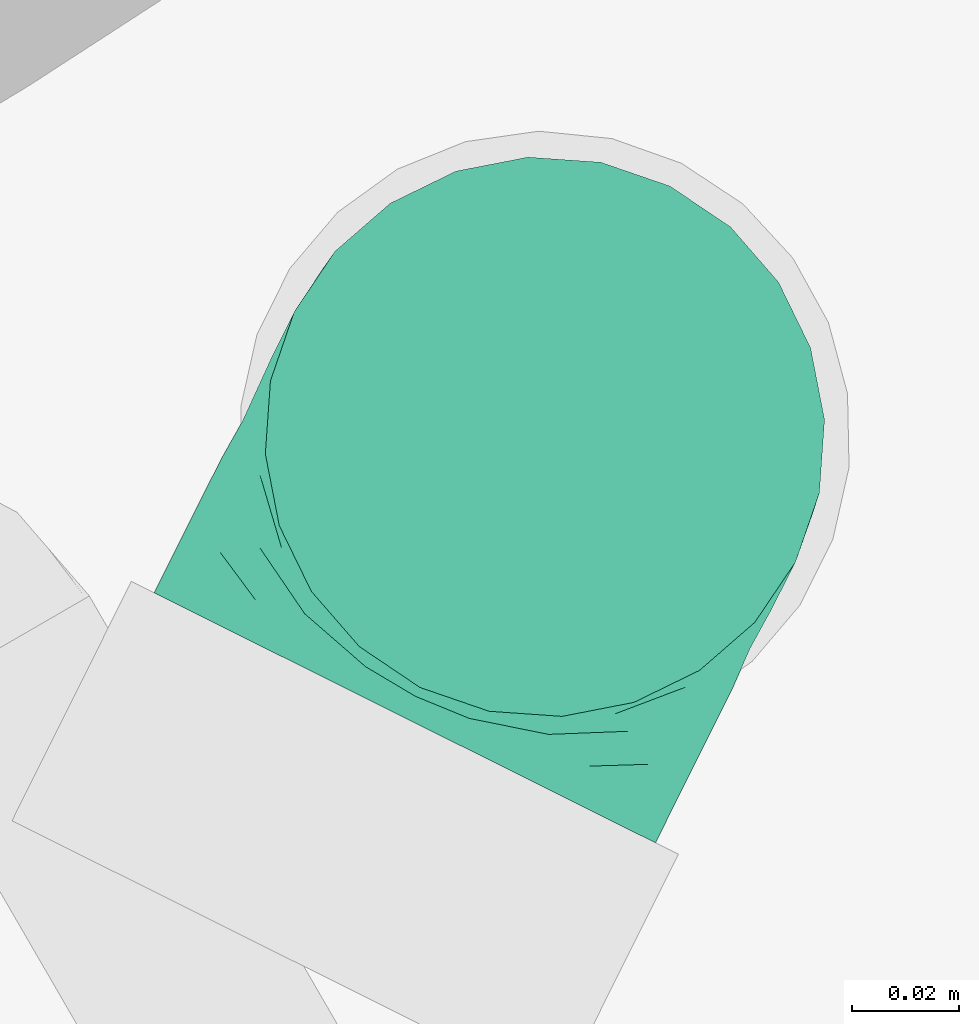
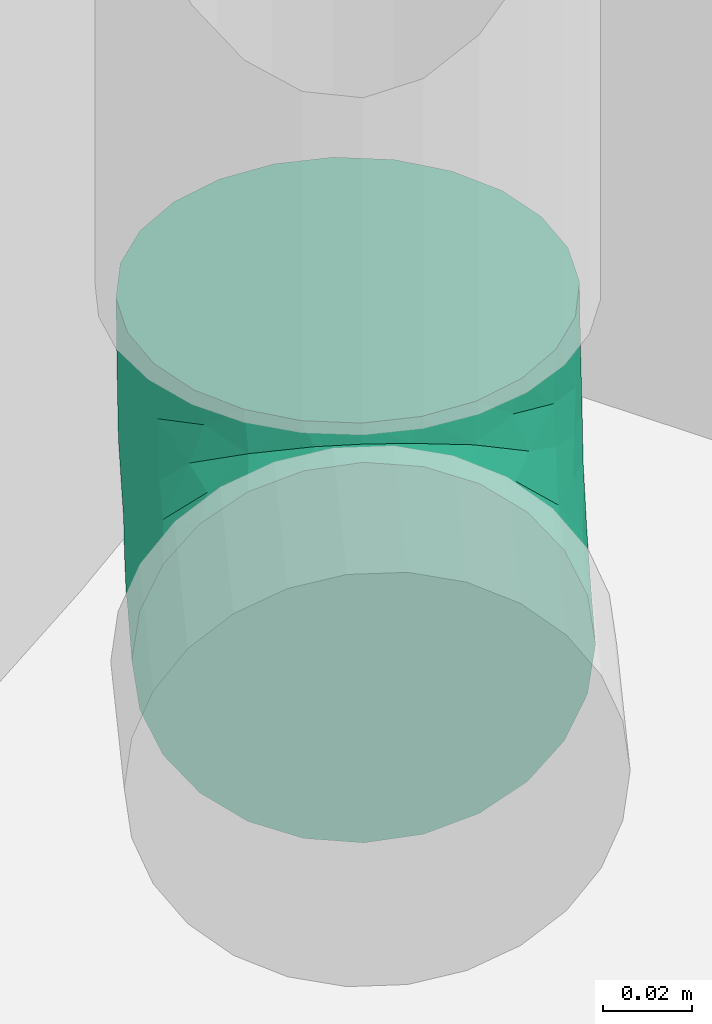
# One storey, part 26 of 34: 1 flow fitting.
"""IFC2X3 building model written with IfcOpenShell, lengths in metres."""

from ifc_helpers import new_model, entity, si_unit, converted_unit, derived_unit, direction, frame, origin, place, context, subcontext, project, spatial, faceted_brep, source, transform, mapped, type_object, type_shapes, element, save


model = new_model("IFC2X3")

# Units and contexts
model_context = context("Model", 3, precision=1e-05, world=origin(), true_north=direction((0.894925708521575, 0.446215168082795)))
context_of_model = context(None, 3, precision=1e-05, world=origin(), true_north=direction((0.894925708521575, 0.446215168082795)))
body_context = subcontext(model_context, "Body", "Model", "MODEL_VIEW")
ifc_project = project(units=[si_unit("LENGTHUNIT", "METRE"), si_unit("AREAUNIT", "SQUARE_METRE"), si_unit("VOLUMEUNIT", "CUBIC_METRE"), converted_unit("PLANEANGLEUNIT", "DEGREE", entity("IfcRatioMeasure", 0.0174532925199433), si_unit("PLANEANGLEUNIT", "RADIAN"), dimensions=[0, 0, 0, 0, 0, 0, 0]), si_unit("MASSUNIT", "GRAM", prefix="KILO"), si_unit("TIMEUNIT", "SECOND"), si_unit("FREQUENCYUNIT", "HERTZ"), si_unit("THERMODYNAMICTEMPERATUREUNIT", "DEGREE_CELSIUS"), derived_unit("THERMALTRANSMITTANCEUNIT", [(si_unit("MASSUNIT", "GRAM", prefix="KILO"), 1), (si_unit("THERMODYNAMICTEMPERATUREUNIT", "KELVIN"), -1), (si_unit("TIMEUNIT", "SECOND"), -3)]), derived_unit("VOLUMETRICFLOWRATEUNIT", [(si_unit("LENGTHUNIT", "METRE"), 3), (si_unit("TIMEUNIT", "SECOND"), -1)]), si_unit("ELECTRICCURRENTUNIT", "AMPERE"), si_unit("ELECTRICVOLTAGEUNIT", "VOLT"), si_unit("POWERUNIT", "WATT"), si_unit("FORCEUNIT", "NEWTON", prefix="KILO"), si_unit("ILLUMINANCEUNIT", "LUX"), si_unit("LUMINOUSFLUXUNIT", "LUMEN"), si_unit("LUMINOUSINTENSITYUNIT", "CANDELA"), si_unit("PRESSUREUNIT", "PASCAL")], contexts=[model_context, context_of_model])

# Site, building, storey
site_placement = place(None, frame((218.228324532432, 584.720189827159, 0.0), z_axis=(0.0, 0.0, 1.0), x_axis=(0.446215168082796, 0.894925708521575, 0.0)))
site = spatial("IfcSite", under=ifc_project, at=site_placement, Name="Default", CompositionType="ELEMENT")
building_placement = place(site_placement, origin())
building = spatial("IfcBuilding", under=site, at=building_placement, CompositionType="ELEMENT")
storey_placement = place(building_placement, frame((0.0, 0.0, 8.61)))
storey = spatial("IfcBuildingStorey", under=building, at=storey_placement, Name="2 - Piano Secondo", CompositionType="ELEMENT", Elevation=8.61)

# Flow fitting
pipe_fitting_type = type_object("IfcPipeFittingType", Name="Standard", PredefinedType="NOTDEFINED")
shared_shape = source(origin(), body_context, "Body", "Brep", [
    faceted_brep([(-0.0587374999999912, 0.0135588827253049, -0.0506024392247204), (-0.0587374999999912, 0.0, -0.0523875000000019), (-0.0587374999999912, -0.0135588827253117, -0.0506024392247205), (-0.0587374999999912, -0.0261937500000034, -0.0453689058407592), (-0.0587374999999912, -0.0370435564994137, -0.0370435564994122), (-0.0587374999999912, -0.0453689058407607, -0.026193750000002), (-0.0587374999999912, -0.0506024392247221, -0.0135588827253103), (-0.0587374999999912, -0.0523875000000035, 0.0), (-0.0587374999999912, -0.0506024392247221, 0.0135588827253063), (-0.0587374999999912, -0.0453689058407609, 0.026193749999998), (-0.0587374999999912, -0.0370435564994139, 0.0370435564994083), (-0.0587374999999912, -0.0261937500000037, 0.0453689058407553), (-0.0587374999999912, -0.013558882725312, 0.0506024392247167), (-0.0587374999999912, 0.0, 0.0523874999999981), (-0.0587374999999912, 0.0135588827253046, 0.0506024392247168), (-0.0587374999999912, 0.0198763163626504, 0.0479856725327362), (-0.0587374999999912, 0.0261937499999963, 0.0453689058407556), (-0.0587374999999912, 0.0370435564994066, 0.0370435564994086), (-0.0587374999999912, 0.0453689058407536, 0.0261937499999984), (-0.0587374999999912, 0.050602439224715, 0.0135588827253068), (-0.0587374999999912, 0.0523874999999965, 0.0), (-0.0587374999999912, 0.0506024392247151, -0.0135588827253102), (-0.0587374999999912, 0.0453689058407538, -0.0261937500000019), (-0.0587374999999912, 0.0370435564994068, -0.0370435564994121), (-0.0587374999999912, 0.0261937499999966, -0.0453689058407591), (-0.0506024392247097, 0.0587374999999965, -0.0135588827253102), (-0.0523874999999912, 0.0587374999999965, 0.0), (-0.0506024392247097, 0.0587374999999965, 0.0135588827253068), (-0.0453689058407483, 0.0587374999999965, 0.0261937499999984), (-0.0370435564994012, 0.0587374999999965, 0.0370435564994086), (-0.0261937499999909, 0.0587374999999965, 0.0453689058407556), (-0.0135588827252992, 0.0587374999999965, 0.0506024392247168), (0.0, 0.0587374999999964, 0.0523874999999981), (0.0135588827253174, 0.0587374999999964, 0.0506024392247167), (0.026193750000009, 0.0587374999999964, 0.0453689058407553), (0.0370435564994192, 0.0587374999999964, 0.0370435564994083), (0.0453689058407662, 0.0587374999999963, 0.026193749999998), (0.0506024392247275, 0.0587374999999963, 0.0135588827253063), (0.0523875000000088, 0.0587374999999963, 0.0), (0.0506024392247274, 0.0587374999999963, -0.0135588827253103), (0.0453689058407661, 0.0587374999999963, -0.026193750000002), (0.037043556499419, 0.0587374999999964, -0.0370435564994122), (0.0261937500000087, 0.0587374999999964, -0.0453689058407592), (0.0135588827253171, 0.0587374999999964, -0.0506024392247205), (0.0, 0.0587374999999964, -0.0523875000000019), (-0.0135588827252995, 0.0587374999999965, -0.0506024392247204), (-0.0198763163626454, 0.0587374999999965, -0.0479856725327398), (-0.0261937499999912, 0.0587374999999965, -0.0453689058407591), (-0.0370435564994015, 0.0587374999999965, -0.0370435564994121), (-0.0453689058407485, 0.0587374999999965, -0.0261937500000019), (-0.0477232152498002, -0.0428768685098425, 0.029234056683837), (-0.0404424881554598, -0.0487405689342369, 0.0146871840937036), (-0.0330754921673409, -0.0426115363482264, 0.02541456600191), (-0.0415677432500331, -0.049668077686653, 0.0), (0.0487405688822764, 0.0404424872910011, 0.0146871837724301), (0.031246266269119, 0.0148508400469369, 0.0321295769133), (0.0388833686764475, 0.0178115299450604, 0.0229045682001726), (0.0367285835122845, 0.0270467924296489, 0.0315108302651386), (-0.0199941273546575, -0.0437374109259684, 0.0127317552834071), (-0.0243979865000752, -0.0469486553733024, 0.0), (-0.00890892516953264, -0.039056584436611, 0.0), (0.0201213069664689, 0.0171012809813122, 0.042637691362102), (0.0230744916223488, 0.037920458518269, 0.0456608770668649), (0.00972866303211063, 0.0282591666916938, 0.0498177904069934), (-0.0491222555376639, 0.0144700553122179, 0.0506347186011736), (-0.0461599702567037, 0.0299660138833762, 0.0446893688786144), (-0.0379204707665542, -0.0230744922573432, 0.0456608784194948), (-0.0171012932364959, -0.0201213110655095, 0.0426376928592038), (-0.028259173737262, -0.00972866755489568, 0.0498177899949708), (-0.040589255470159, -0.0342234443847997, 0.0380789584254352), (-0.0270467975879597, -0.0367285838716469, 0.0315108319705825), (-0.0271152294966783, -0.0291112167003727, 0.03930979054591), (-0.0534446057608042, 0.0534446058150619, 0.0108471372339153), (-0.0495063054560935, 0.0496646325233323, 0.025443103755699), (-0.0173243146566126, 0.0419210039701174, 0.0504710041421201), (-0.00371546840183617, 0.0428654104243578, 0.0523668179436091), (-0.0450087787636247, -0.00973337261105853, 0.0511988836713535), (-0.0299568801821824, 0.046486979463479, 0.0446150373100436), (-0.0399230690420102, 0.0173966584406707, 0.0506667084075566), (-0.0424424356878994, 0.00369105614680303, 0.052370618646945), (-0.0263131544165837, 0.00911196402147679, 0.0523846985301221), (-0.00146414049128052, -0.0204367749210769, 0.0349996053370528), (0.00326567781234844, -0.0262911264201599, 0.0241349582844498), (0.0134674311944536, -0.014700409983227, 0.0280406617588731), (-0.051439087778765, 0.0405009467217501, 0.0348719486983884), (0.00973337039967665, 0.0450087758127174, 0.0511988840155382), (0.035173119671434, 0.00432985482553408, 0.0162746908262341), (0.0311645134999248, -0.00658013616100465, 0.0), (0.0390565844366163, 0.00890892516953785, 0.0), (0.00819521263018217, -0.00866873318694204, 0.0378156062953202), (-0.00965050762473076, -0.0101996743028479, 0.0455427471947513), (0.0428768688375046, 0.047723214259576, 0.0292340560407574), (-0.0246124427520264, 0.0342586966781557, 0.0496407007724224), (-0.0333214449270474, 0.0280057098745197, 0.048875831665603), (-0.0208506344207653, 0.0237046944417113, 0.0518992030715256), (0.0342234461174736, 0.0405892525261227, 0.0380789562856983), (0.0291112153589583, 0.0271152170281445, 0.0393097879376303), (0.0469486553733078, 0.0243979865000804, 0.0), (0.0496680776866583, 0.0415677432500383, 0.0), (0.043737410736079, 0.0199941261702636, 0.0127317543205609), (-0.00986713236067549, 0.0306998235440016, 0.0523327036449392), (-0.0542473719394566, 0.0542473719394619, 0.0), (-0.0405009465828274, 0.0514390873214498, 0.0348719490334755), (-0.0424073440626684, 0.0424073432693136, 0.0383928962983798), (0.0238466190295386, -0.0126740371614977, 0.0141509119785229), (-0.0141620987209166, -0.000990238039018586, 0.0499511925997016), (-0.00750695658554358, 0.0132290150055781, 0.0514652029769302), (0.00658013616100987, -0.0311645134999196, 0.0), (-0.00432985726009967, -0.0351731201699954, 0.0162746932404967), (0.042611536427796, 0.0330754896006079, 0.025414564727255), (-0.0347196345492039, 0.037964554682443, 0.0449042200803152), (0.000171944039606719, 0.0306895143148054, 0.0519816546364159), (-0.0178115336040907, -0.0388833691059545, 0.022904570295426), (0.0188723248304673, -0.0188723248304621, 0.0), (0.0120090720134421, -0.0250981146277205, 0.0121471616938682), (0.0200875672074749, 0.000757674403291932, 0.0348495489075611), (0.024463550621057, -0.0051316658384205, 0.0247890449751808), (0.000788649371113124, -0.000788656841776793, 0.0457929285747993), (0.00240405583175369, 0.0189002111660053, 0.0504158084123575), (0.0110535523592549, 0.0154294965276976, 0.0468715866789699), (-0.0148508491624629, -0.0312462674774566, 0.0321295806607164), (0.0125287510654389, 0.00468746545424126, 0.0424445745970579), (-0.0144700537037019, 0.0491222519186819, -0.0506347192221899), (-0.00432985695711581, -0.0351731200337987, -0.0162746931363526), (-0.0199941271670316, -0.0437374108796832, -0.0127317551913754), (-0.041921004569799, 0.0173243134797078, -0.0504710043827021), (-0.0428654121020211, 0.00371546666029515, -0.0523668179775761), (-0.0496646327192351, 0.0495063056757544, -0.0254431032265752), (-0.0424073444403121, 0.0424073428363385, -0.0383928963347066), (-0.0514390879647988, 0.0405009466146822, -0.0348719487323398), (0.020436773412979, 0.00146413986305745, -0.0349996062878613), (0.00866872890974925, -0.00819521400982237, -0.0378156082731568), (0.0101996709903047, 0.00965050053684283, -0.0455427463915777), (-0.0171012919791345, -0.020121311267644, -0.0426376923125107), (-0.0148508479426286, -0.0312462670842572, -0.0321295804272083), (-0.027115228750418, -0.0291112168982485, -0.0393097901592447), (-0.00911196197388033, 0.0263131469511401, -0.0523846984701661), (0.00972866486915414, 0.0282591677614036, -0.049817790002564), (0.000990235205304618, 0.0141620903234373, -0.0499511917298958), (-0.0132290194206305, 0.0075069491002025, -0.0514652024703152), (-0.0237046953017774, 0.0208506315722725, -0.0518992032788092), (-0.0404424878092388, -0.0487405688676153, -0.014687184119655), (-0.0477232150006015, -0.0428768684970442, -0.0292340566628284), (-0.0280057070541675, 0.0333214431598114, -0.0488758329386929), (-0.0299660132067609, 0.0461599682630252, -0.0446893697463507), (-0.0173966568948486, 0.0399230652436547, -0.0506667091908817), (-0.0534446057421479, 0.0534446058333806, -0.0108471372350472), (-0.0405892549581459, -0.034223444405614, -0.0380789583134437), (-0.0379204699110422, -0.0230744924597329, -0.0456608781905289), (-0.0282591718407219, -0.00972866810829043, -0.0498177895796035), (-0.0342586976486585, 0.0246124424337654, -0.0496407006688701), (-0.0464869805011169, 0.0299568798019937, -0.044615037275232), (-0.045008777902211, -0.00973337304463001, -0.0511988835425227), (-0.0178115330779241, -0.0388833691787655, -0.022904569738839), (-0.0270467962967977, -0.0367285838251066, -0.0315108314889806), (-0.0330754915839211, -0.0426115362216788, -0.0254145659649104), (0.0230744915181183, 0.0379204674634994, -0.0456608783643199), (0.0291112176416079, 0.0271152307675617, -0.0393097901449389), (0.0201213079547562, 0.0171012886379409, -0.0426376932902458), (-0.040500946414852, 0.0514390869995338, -0.0348719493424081), (-0.00369105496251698, 0.0424424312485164, -0.0523706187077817), (0.0428768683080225, 0.0477232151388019, -0.0292340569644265), (0.00973337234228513, 0.045008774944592, -0.0511988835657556), (0.0342234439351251, 0.0405892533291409, -0.0380789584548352), (0.0262911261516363, -0.00326567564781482, -0.0241349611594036), (0.0147004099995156, -0.0134674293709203, -0.0280406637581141), (0.0487405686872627, 0.0404424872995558, -0.0146871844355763), (0.0437374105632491, 0.0199941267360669, -0.0127317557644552), (0.0426115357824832, 0.0330754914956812, -0.0254145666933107), (0.0126740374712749, -0.0238466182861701, -0.0141509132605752), (-0.0306998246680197, 0.00986712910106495, -0.052332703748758), (0.0367285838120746, 0.0270467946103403, -0.0315108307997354), (0.0351731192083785, 0.00432985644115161, -0.0162746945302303), (-0.0379645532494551, 0.0347196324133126, -0.0449042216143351), (-0.0306895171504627, -0.000171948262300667, -0.0519816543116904), (0.0388833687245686, 0.0178115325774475, -0.0229045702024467), (0.025098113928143, -0.0120090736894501, -0.0121471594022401), (-0.000757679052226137, -0.0200875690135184, -0.0348495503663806), (0.0051316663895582, -0.0244635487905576, -0.0247890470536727), (0.000788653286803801, -0.000788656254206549, -0.0457929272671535), (-0.0189002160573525, -0.00240406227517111, -0.050415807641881), (-0.0154295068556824, -0.0110535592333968, -0.0468715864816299), (0.0312462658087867, 0.0148508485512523, -0.0321295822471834), (-0.00468747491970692, -0.0125287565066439, -0.0424445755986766)], [[[0, 1, 2, 3, 4, 5, 6, 7, 8, 9, 10, 11, 12, 13, 14, 15, 16, 17, 18, 19, 20, 21, 22, 23, 24]], [[25, 26, 27, 28, 29, 30, 31, 32, 33, 34, 35, 36, 37, 38, 39, 40, 41, 42, 43, 44, 45, 46, 47, 48, 49]], [[50, 51, 52]], [[53, 8, 7]], [[36, 54, 37]], [[55, 56, 57]], [[58, 59, 60]], [[61, 62, 63]], [[64, 65, 16]], [[66, 67, 68]], [[11, 69, 66]], [[70, 71, 69]], [[72, 73, 27]], [[31, 74, 75]], [[66, 68, 76]], [[13, 12, 76]], [[30, 77, 74]], [[16, 15, 14, 64]], [[78, 79, 80]], [[81, 82, 83]], [[51, 9, 8]], [[18, 17, 84]], [[30, 29, 77]], [[84, 73, 18]], [[72, 20, 19]], [[12, 11, 66]], [[16, 65, 17]], [[10, 9, 50]], [[33, 32, 85]], [[18, 73, 19]], [[62, 33, 85]], [[86, 87, 88]], [[81, 89, 90]], [[33, 62, 34]], [[35, 91, 36]], [[75, 32, 31]], [[92, 93, 94]], [[36, 91, 54]], [[62, 95, 34]], [[61, 55, 96]], [[54, 97, 98]], [[93, 65, 78]], [[97, 99, 88]], [[100, 75, 74]], [[101, 20, 72]], [[11, 10, 69]], [[101, 72, 26]], [[66, 71, 67]], [[102, 73, 103]], [[86, 88, 99]], [[28, 102, 29]], [[87, 86, 104]], [[28, 27, 73]], [[80, 68, 105]], [[106, 94, 80]], [[31, 30, 74]], [[14, 13, 79]], [[107, 108, 60]], [[35, 34, 95]], [[54, 109, 99]], [[8, 53, 51]], [[98, 37, 54]], [[76, 79, 13]], [[78, 80, 94]], [[93, 78, 94]], [[84, 65, 103]], [[102, 77, 29]], [[65, 93, 110]], [[74, 92, 100]], [[75, 111, 85]], [[57, 96, 55]], [[91, 95, 109]], [[50, 69, 10]], [[70, 52, 112]], [[51, 59, 58]], [[59, 51, 53]], [[38, 37, 98]], [[108, 112, 58]], [[58, 112, 52]], [[107, 113, 114]], [[61, 115, 55]], [[116, 115, 83]], [[99, 56, 86]], [[55, 115, 116]], [[108, 58, 60]], [[51, 58, 52]], [[54, 99, 97]], [[99, 109, 56]], [[79, 68, 80]], [[106, 105, 117]], [[63, 111, 118]], [[100, 111, 75]], [[119, 63, 118]], [[81, 83, 89]], [[81, 67, 120]], [[105, 90, 117]], [[121, 115, 61]], [[83, 104, 116]], [[83, 82, 114]], [[114, 113, 104]], [[83, 114, 104]], [[113, 87, 104]], [[108, 107, 114]], [[82, 120, 108]], [[83, 115, 89]], [[120, 82, 81]], [[114, 82, 108]], [[121, 89, 115]], [[90, 89, 117]], [[75, 85, 32]], [[62, 85, 63]], [[66, 76, 12]], [[79, 76, 68]], [[94, 100, 92]], [[103, 110, 77]], [[94, 106, 100]], [[106, 118, 111]], [[106, 111, 100]], [[85, 111, 63]], [[106, 117, 118]], [[117, 121, 119]], [[74, 77, 92]], [[110, 92, 77]], [[104, 86, 116]], [[55, 116, 86]], [[108, 120, 112]], [[70, 112, 120]], [[71, 70, 120]], [[69, 52, 70]], [[67, 71, 120]], [[69, 71, 66]], [[57, 56, 109]], [[55, 86, 56]], [[109, 95, 57]], [[96, 95, 62]], [[95, 96, 57]], [[61, 96, 62]], [[73, 102, 28]], [[77, 102, 103]], [[65, 84, 17]], [[73, 84, 103]], [[80, 105, 106]], [[90, 68, 67]], [[68, 90, 105]], [[81, 90, 67]], [[73, 72, 19]], [[26, 72, 27]], [[51, 50, 9]], [[69, 50, 52]], [[95, 91, 35]], [[54, 91, 109]], [[78, 65, 64]], [[14, 79, 64]], [[79, 78, 64]], [[119, 121, 61]], [[89, 121, 117]], [[63, 119, 61]], [[117, 119, 118]], [[65, 110, 103]], [[92, 110, 93]], [[46, 45, 122, 47]], [[123, 60, 124]], [[125, 0, 24]], [[1, 0, 126]], [[127, 128, 129]], [[59, 124, 60]], [[22, 129, 23]], [[130, 131, 132]], [[22, 21, 127]], [[133, 134, 135]], [[136, 137, 138]], [[139, 140, 136]], [[141, 5, 142]], [[143, 144, 145]], [[141, 59, 53]], [[146, 127, 21]], [[147, 3, 148]], [[133, 148, 149]], [[2, 148, 3]], [[150, 143, 140]], [[24, 23, 151]], [[142, 5, 4]], [[4, 3, 147]], [[2, 152, 148]], [[123, 107, 60]], [[134, 153, 154]], [[20, 101, 146]], [[141, 155, 124]], [[26, 25, 146]], [[156, 157, 158]], [[49, 159, 127]], [[122, 144, 47]], [[45, 44, 160]], [[48, 159, 49]], [[41, 40, 161]], [[145, 160, 136]], [[156, 137, 162]], [[151, 125, 24]], [[144, 48, 47]], [[0, 125, 126]], [[43, 162, 44]], [[163, 156, 42]], [[130, 164, 165]], [[166, 40, 39]], [[167, 97, 88]], [[137, 156, 158]], [[2, 1, 152]], [[168, 161, 166]], [[107, 123, 169]], [[38, 98, 39]], [[42, 41, 163]], [[170, 126, 125]], [[171, 157, 163]], [[43, 42, 156]], [[5, 141, 6]], [[39, 98, 166]], [[20, 146, 21]], [[87, 172, 88]], [[49, 127, 25]], [[53, 6, 141]], [[162, 160, 44]], [[145, 136, 140]], [[143, 145, 140]], [[159, 144, 128]], [[129, 151, 23]], [[144, 143, 173]], [[125, 150, 170]], [[126, 174, 152]], [[154, 135, 134]], [[142, 147, 155]], [[161, 163, 41]], [[171, 168, 175]], [[166, 97, 167]], [[97, 166, 98]], [[7, 6, 53]], [[172, 175, 167]], [[167, 175, 168]], [[87, 113, 176]], [[133, 177, 134]], [[178, 177, 165]], [[124, 153, 123]], [[134, 177, 178]], [[172, 167, 88]], [[166, 167, 168]], [[141, 124, 59]], [[124, 155, 153]], [[160, 137, 136]], [[139, 138, 179]], [[149, 174, 180]], [[170, 174, 126]], [[181, 149, 180]], [[130, 165, 131]], [[130, 158, 182]], [[138, 132, 179]], [[183, 177, 133]], [[165, 169, 178]], [[165, 164, 176]], [[176, 113, 169]], [[165, 176, 169]], [[113, 107, 169]], [[172, 87, 176]], [[164, 182, 172]], [[165, 177, 131]], [[182, 164, 130]], [[176, 164, 172]], [[183, 131, 177]], [[132, 131, 179]], [[126, 152, 1]], [[148, 152, 149]], [[156, 162, 43]], [[160, 162, 137]], [[140, 170, 150]], [[128, 173, 151]], [[140, 139, 170]], [[139, 180, 174]], [[139, 174, 170]], [[152, 174, 149]], [[139, 179, 180]], [[179, 183, 181]], [[125, 151, 150]], [[173, 150, 151]], [[169, 123, 178]], [[134, 178, 123]], [[172, 182, 175]], [[171, 175, 182]], [[157, 171, 182]], [[163, 168, 171]], [[158, 157, 182]], [[163, 157, 156]], [[154, 153, 155]], [[134, 123, 153]], [[155, 147, 154]], [[135, 147, 148]], [[147, 135, 154]], [[133, 135, 148]], [[127, 129, 22]], [[151, 129, 128]], [[144, 159, 48]], [[127, 159, 128]], [[136, 138, 139]], [[132, 137, 158]], [[137, 132, 138]], [[130, 132, 158]], [[26, 146, 101]], [[127, 146, 25]], [[166, 161, 40]], [[163, 161, 168]], [[147, 142, 4]], [[141, 142, 155]], [[145, 144, 122]], [[45, 160, 122]], [[160, 145, 122]], [[181, 183, 133]], [[131, 183, 179]], [[149, 181, 133]], [[179, 181, 180]], [[144, 173, 128]], [[150, 173, 143]]]),
])
type_shapes(pipe_fitting_type, [shared_shape])
flow_fitting_placement = place(storey_placement, frame((68.928698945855, -7.81274447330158, 0.107149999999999), z_axis=(0.0, -1.0, 0.0), x_axis=(1.0, 0.0, 0.0)))
element("IfcFlowFitting", 1, at=flow_fitting_placement, inside=storey, type_object=pipe_fitting_type, Name="M_Gomito - Generico:Standard", ObjectType="Standard", context=body_context, shape_type="MappedRepresentation", body=[
    mapped(shared_shape, transform((0.0, 0.0, 0.0), scale=1.0)),
])

save(model, "model.ifc")
